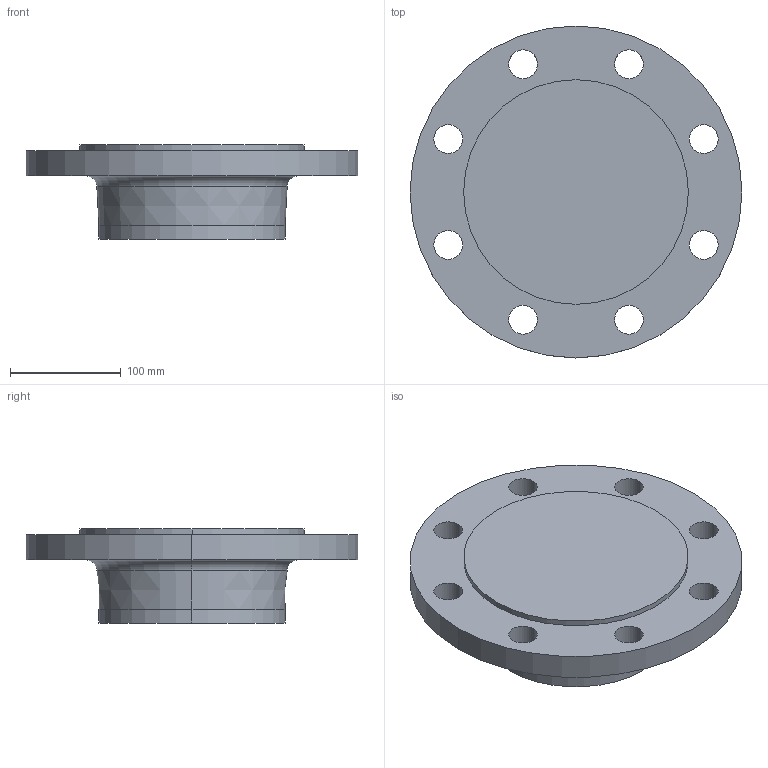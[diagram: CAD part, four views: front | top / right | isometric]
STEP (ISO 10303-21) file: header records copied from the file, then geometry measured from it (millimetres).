
FILE_DESCRIPTION (( 'STEP AP214' ), '1' );
FILE_NAME ('PN40 DN150 Type 21(ii) - Type E Face.STEP', '2019-01-02T23:10:13', ( '' ), ( '' ), 'SwSTEP 2.0', 'SolidWorks 2019', '' );
FILE_SCHEMA (( 'AUTOMOTIVE_DESIGN' ));
Length unit declared in the file: millimetre
Products named in the file (1): PN40 DN150 Type 21(ii) - Type E Face
Bounding box: 300 x 300 x 85 mm (x, y, z)
Volume: 2996718.8 mm3; surface area: 199988.6 mm2
Topology: 1 solids, 1 shells, 32 faces, 78 edges, 50 vertices
Faces by surface type: cylinder 22, torus 4, plane 4, cone 2
Entity records: 1034 total; most frequent: DIRECTION 198, CARTESIAN_POINT 161, ORIENTED_EDGE 156, AXIS2_PLACEMENT_3D 87, EDGE_CURVE 78, CIRCLE 54, VERTEX_POINT 50, EDGE_LOOP 50
